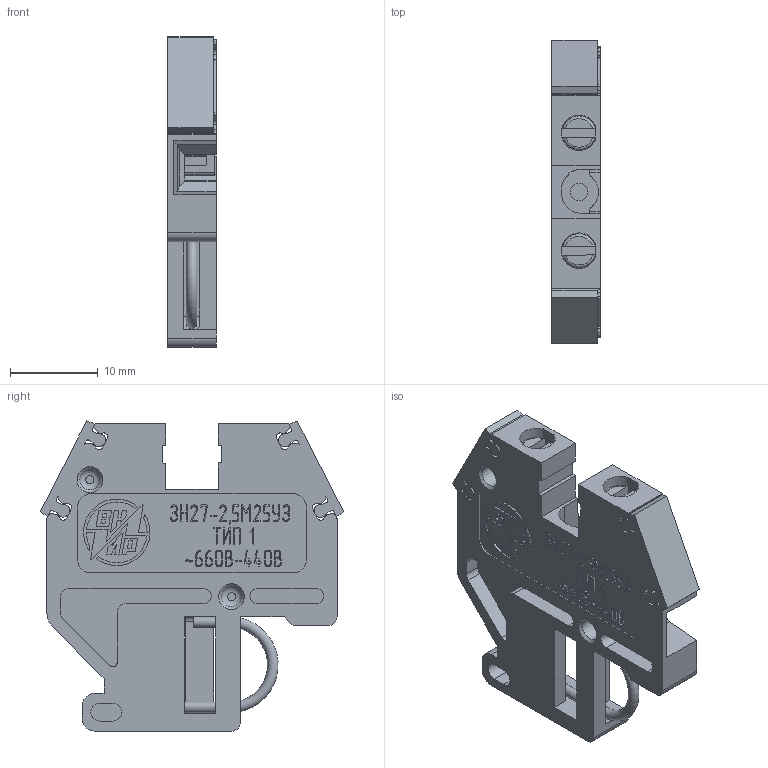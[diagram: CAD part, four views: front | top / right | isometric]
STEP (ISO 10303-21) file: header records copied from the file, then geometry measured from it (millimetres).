
FILE_DESCRIPTION(('STEP AP242'), '1');
FILE_NAME('ÇÍ27-2,5Ì25 òèï 1 áåç êðûøêè', '', ('UNSPECIFIED'), ('UNSPECIFIED'), 'ASCON STEP Converter 1.6', 'ASCON Math Kernel', '');
FILE_SCHEMA(('AP242_MANAGED_MODEL_BASED_3D_ENGINEERING_MIM_LF { 1 0 10303 442 1 1 4 }'));
Length unit declared in the file: millimetre
Bounding box: 5.5 x 34.49 x 35.29 mm (x, y, z)
Volume: 3069.7 mm3; surface area: 4768.3 mm2
Topology: 2 solids, 2 shells, 2113 faces, 6155 edges, 4089 vertices
Faces by surface type: plane 1387, cylinder 693, cone 20, torus 13
Full cylindrical faces by diameter (mm): 1.2 x4, 2 x2, 2.013 x1, 2.6 x2, 2.621 x2, 3 x2
Entity records: 87133 total; most frequent: CARTESIAN_POINT 13123, ORIENTED_EDGE 12222, DIRECTION 11699, EDGE_CURVE 6111, LINE 4633, VECTOR 4633, VERTEX_POINT 4085, AXIS2_PLACEMENT_3D 3533
